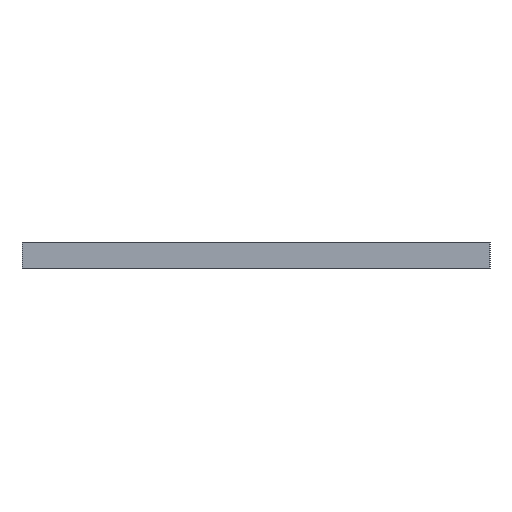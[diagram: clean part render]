
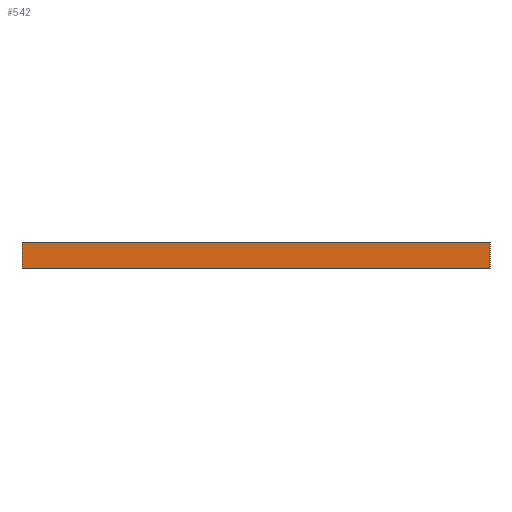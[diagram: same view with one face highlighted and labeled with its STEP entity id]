
A CAD part, left-side view. The second image highlights one B-rep face of the part: STEP entity #542.
In plain terms, the highlighted planar face has unit normal (-1, 0, 0).
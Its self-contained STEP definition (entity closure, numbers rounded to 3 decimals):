
#57=CARTESIAN_POINT('Line Origine',(-215.,0.,5.)) ;
#61=CARTESIAN_POINT('Vertex',(-215.,45.,5.)) ;
#63=CARTESIAN_POINT('Vertex',(-215.,-45.,5.)) ;
#512=CARTESIAN_POINT('Axis2P3D Location',(-215.,45.,0.)) ;
#517=CARTESIAN_POINT('Line Origine',(-215.,45.,2.5)) ;
#521=CARTESIAN_POINT('Vertex',(-215.,45.,0.)) ;
#524=CARTESIAN_POINT('Line Origine',(-215.,0.,0.)) ;
#528=CARTESIAN_POINT('Vertex',(-215.,-45.,0.)) ;
#531=CARTESIAN_POINT('Line Origine',(-215.,-45.,2.5)) ;
#58=DIRECTION('Vector Direction',(0.,-1.,0.)) ;
#513=DIRECTION('Axis2P3D Direction',(-1.,0.,0.)) ;
#514=DIRECTION('Axis2P3D XDirection',(0.,-1.,0.)) ;
#518=DIRECTION('Vector Direction',(0.,0.,1.)) ;
#525=DIRECTION('Vector Direction',(0.,-1.,0.)) ;
#532=DIRECTION('Vector Direction',(0.,0.,1.)) ;
#515=AXIS2_PLACEMENT_3D('Plane Axis2P3D',#512,#513,#514) ;
#537=ORIENTED_EDGE('',*,*,#523,.F.) ;
#538=ORIENTED_EDGE('',*,*,#530,.T.) ;
#539=ORIENTED_EDGE('',*,*,#535,.T.) ;
#540=ORIENTED_EDGE('',*,*,#65,.F.) ;
#59=VECTOR('Line Direction',#58,1.) ;
#519=VECTOR('Line Direction',#518,1.) ;
#526=VECTOR('Line Direction',#525,1.) ;
#533=VECTOR('Line Direction',#532,1.) ;
#542=ADVANCED_FACE('Corps principal',(#541),#516,.T.) ;
#65=EDGE_CURVE('',#62,#64,#60,.T.) ;
#523=EDGE_CURVE('',#522,#62,#520,.T.) ;
#530=EDGE_CURVE('',#522,#529,#527,.T.) ;
#535=EDGE_CURVE('',#529,#64,#534,.T.) ;
#536=EDGE_LOOP('',(#537,#538,#539,#540)) ;
#541=FACE_OUTER_BOUND('',#536,.T.) ;
#60=LINE('Line',#57,#59) ;
#520=LINE('Line',#517,#519) ;
#527=LINE('Line',#524,#526) ;
#534=LINE('Line',#531,#533) ;
#516=PLANE('',#515) ;
#62=VERTEX_POINT('',#61) ;
#64=VERTEX_POINT('',#63) ;
#522=VERTEX_POINT('',#521) ;
#529=VERTEX_POINT('',#528) ;
